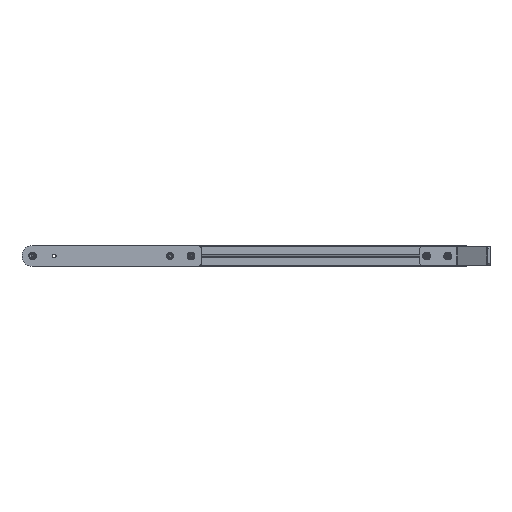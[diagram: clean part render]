
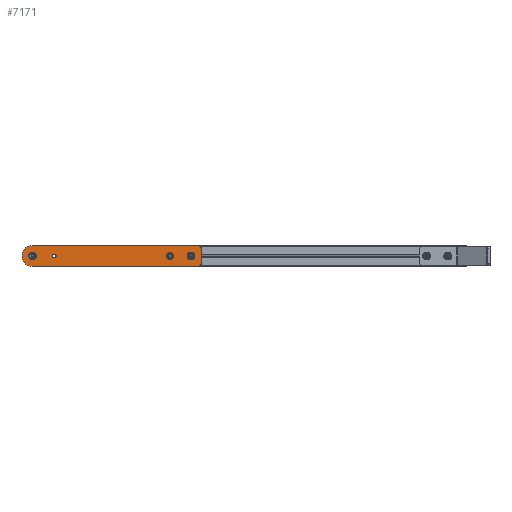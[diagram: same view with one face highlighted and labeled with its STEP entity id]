
A CAD part, left-side view. The second image highlights one B-rep face of the part: STEP entity #7171.
In plain terms, the highlighted planar face has unit normal (-1, 0, 0) as drawn and (0, 0, 1) by its records, which use the part's own axes.
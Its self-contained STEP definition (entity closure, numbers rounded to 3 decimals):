
#112 = ORIENTED_EDGE ( 'NONE', *, *, #10825, .F. ) ;
#296 = VERTEX_POINT ( 'NONE', #2388 ) ;
#445 = VERTEX_POINT ( 'NONE', #3470 ) ;
#449 = DIRECTION ( 'NONE',  ( 0., 0., 1. ) ) ;
#584 = AXIS2_PLACEMENT_3D ( 'NONE', #6480, #10122, #5572 ) ;
#697 = ORIENTED_EDGE ( 'NONE', *, *, #7483, .T. ) ;
#761 = CARTESIAN_POINT ( 'NONE',  ( 12.5, -350., 8. ) ) ;
#873 = CARTESIAN_POINT ( 'NONE',  ( -12.5, -360., 8. ) ) ;
#1412 = CIRCLE ( 'NONE', #2186, 10. ) ;
#1608 = CARTESIAN_POINT ( 'NONE',  ( 12.5, -360., 8. ) ) ;
#1760 = VERTEX_POINT ( 'NONE', #5456 ) ;
#1792 = LINE ( 'NONE', #873, #9332 ) ;
#1976 = EDGE_LOOP ( 'NONE', ( #112 ) ) ;
#1982 = CIRCLE ( 'NONE', #7981, 4.25 ) ;
#2148 = CIRCLE ( 'NONE', #584, 4.25 ) ;
#2186 = AXIS2_PLACEMENT_3D ( 'NONE', #2517, #6212, #9920 ) ;
#2234 = EDGE_CURVE ( 'NONE', #3798, #6490, #1792, .T. ) ;
#2294 = VERTEX_POINT ( 'NONE', #3194 ) ;
#2316 = DIRECTION ( 'NONE',  ( 0., 1., 0. ) ) ;
#2388 = CARTESIAN_POINT ( 'NONE',  ( 22.5, -350., 8. ) ) ;
#2517 = CARTESIAN_POINT ( 'NONE',  ( -12.5, -350., 8. ) ) ;
#2597 = FACE_BOUND ( 'NONE', #8111, .T. ) ;
#2605 = VERTEX_POINT ( 'NONE', #9415 ) ;
#2786 = FACE_BOUND ( 'NONE', #1976, .T. ) ;
#3152 = DIRECTION ( 'NONE',  ( 0., 0., 1. ) ) ;
#3194 = CARTESIAN_POINT ( 'NONE',  ( 4.25, 0., 8. ) ) ;
#3393 = CIRCLE ( 'NONE', #4005, 4.25 ) ;
#3470 = CARTESIAN_POINT ( 'NONE',  ( 22.5, 0., 8. ) ) ;
#3535 = AXIS2_PLACEMENT_3D ( 'NONE', #761, #3638, #3692 ) ;
#3573 = EDGE_CURVE ( 'NONE', #2605, #5420, #10712, .T. ) ;
#3638 = DIRECTION ( 'NONE',  ( 0., 0., -1. ) ) ;
#3692 = DIRECTION ( 'NONE',  ( -1., 0., 0. ) ) ;
#3798 = VERTEX_POINT ( 'NONE', #6005 ) ;
#3843 = EDGE_LOOP ( 'NONE', ( #4418 ) ) ;
#3865 = AXIS2_PLACEMENT_3D ( 'NONE', #10528, #449, #5180 ) ;
#4005 = AXIS2_PLACEMENT_3D ( 'NONE', #8854, #3152, #7765 ) ;
#4112 = VERTEX_POINT ( 'NONE', #7091 ) ;
#4130 = ORIENTED_EDGE ( 'NONE', *, *, #6803, .F. ) ;
#4206 = CARTESIAN_POINT ( 'NONE',  ( 22.5, 0., 8. ) ) ;
#4288 = ORIENTED_EDGE ( 'NONE', *, *, #2234, .T. ) ;
#4418 = ORIENTED_EDGE ( 'NONE', *, *, #5068, .F. ) ;
#4544 = FACE_OUTER_BOUND ( 'NONE', #7259, .T. ) ;
#5068 = EDGE_CURVE ( 'NONE', #1760, #1760, #10067, .T. ) ;
#5180 = DIRECTION ( 'NONE',  ( 1., 0., 0. ) ) ;
#5247 = CARTESIAN_POINT ( 'NONE',  ( 4.25, -292.5, 8. ) ) ;
#5313 = ORIENTED_EDGE ( 'NONE', *, *, #7330, .T. ) ;
#5411 = DIRECTION ( 'NONE',  ( 0., 0., 1. ) ) ;
#5420 = VERTEX_POINT ( 'NONE', #11649 ) ;
#5456 = CARTESIAN_POINT ( 'NONE',  ( 4.25, -46., 8. ) ) ;
#5572 = DIRECTION ( 'NONE',  ( 1., 0., 0. ) ) ;
#5632 = ORIENTED_EDGE ( 'NONE', *, *, #5992, .F. ) ;
#5992 = EDGE_CURVE ( 'NONE', #4112, #4112, #2148, .T. ) ;
#6005 = CARTESIAN_POINT ( 'NONE',  ( -12.5, -360., 8. ) ) ;
#6043 = VERTEX_POINT ( 'NONE', #5247 ) ;
#6074 = CIRCLE ( 'NONE', #8010, 10. ) ;
#6212 = DIRECTION ( 'NONE',  ( 0., 0., 1. ) ) ;
#6415 = PLANE ( 'NONE',  #3535 ) ;
#6445 = DIRECTION ( 'NONE',  ( 1., 0., 0. ) ) ;
#6480 = CARTESIAN_POINT ( 'NONE',  ( 0., -337.5, 8. ) ) ;
#6490 = VERTEX_POINT ( 'NONE', #1608 ) ;
#6593 = DIRECTION ( 'NONE',  ( -1., 0., 0. ) ) ;
#6803 = EDGE_CURVE ( 'NONE', #6043, #6043, #1982, .T. ) ;
#6938 = LINE ( 'NONE', #4206, #10084 ) ;
#7023 = CARTESIAN_POINT ( 'NONE',  ( -22.5, 0., 8. ) ) ;
#7091 = CARTESIAN_POINT ( 'NONE',  ( 4.25, -337.5, 8. ) ) ;
#7128 = CARTESIAN_POINT ( 'NONE',  ( 0., -292.5, 8. ) ) ;
#7171 = ADVANCED_FACE ( 'NONE', ( #7467, #2597, #10002, #2786, #4544 ), #6415, .F. ) ;
#7259 = EDGE_LOOP ( 'NONE', ( #9404, #8882, #5313, #10527, #697, #4288 ) ) ;
#7330 = EDGE_CURVE ( 'NONE', #445, #2605, #9925, .T. ) ;
#7467 = FACE_BOUND ( 'NONE', #7925, .T. ) ;
#7483 = EDGE_CURVE ( 'NONE', #5420, #3798, #1412, .T. ) ;
#7696 = CARTESIAN_POINT ( 'NONE',  ( 0., 0., 8. ) ) ;
#7765 = DIRECTION ( 'NONE',  ( 1., 0., 0. ) ) ;
#7845 = DIRECTION ( 'NONE',  ( 0., 0., 1. ) ) ;
#7925 = EDGE_LOOP ( 'NONE', ( #5632 ) ) ;
#7981 = AXIS2_PLACEMENT_3D ( 'NONE', #7128, #5411, #6445 ) ;
#8010 = AXIS2_PLACEMENT_3D ( 'NONE', #9894, #7845, #9719 ) ;
#8111 = EDGE_LOOP ( 'NONE', ( #4130 ) ) ;
#8280 = EDGE_CURVE ( 'NONE', #296, #445, #6938, .T. ) ;
#8403 = VECTOR ( 'NONE', #9803, 1000. ) ;
#8854 = CARTESIAN_POINT ( 'NONE',  ( 0., 0., 8. ) ) ;
#8882 = ORIENTED_EDGE ( 'NONE', *, *, #8280, .T. ) ;
#9332 = VECTOR ( 'NONE', #10396, 1000. ) ;
#9404 = ORIENTED_EDGE ( 'NONE', *, *, #11542, .T. ) ;
#9415 = CARTESIAN_POINT ( 'NONE',  ( -22.5, 0., 8. ) ) ;
#9719 = DIRECTION ( 'NONE',  ( -1., 0., 0. ) ) ;
#9803 = DIRECTION ( 'NONE',  ( 0., -1., 0. ) ) ;
#9894 = CARTESIAN_POINT ( 'NONE',  ( 12.5, -350., 8. ) ) ;
#9920 = DIRECTION ( 'NONE',  ( 1., 0., 0. ) ) ;
#9925 = CIRCLE ( 'NONE', #10317, 22.5 ) ;
#10002 = FACE_BOUND ( 'NONE', #3843, .T. ) ;
#10067 = CIRCLE ( 'NONE', #3865, 4.25 ) ;
#10084 = VECTOR ( 'NONE', #2316, 1000. ) ;
#10122 = DIRECTION ( 'NONE',  ( 0., 0., 1. ) ) ;
#10317 = AXIS2_PLACEMENT_3D ( 'NONE', #7696, #10416, #6593 ) ;
#10396 = DIRECTION ( 'NONE',  ( 1., 0., 0. ) ) ;
#10416 = DIRECTION ( 'NONE',  ( 0., 0., 1. ) ) ;
#10527 = ORIENTED_EDGE ( 'NONE', *, *, #3573, .T. ) ;
#10528 = CARTESIAN_POINT ( 'NONE',  ( 0., -46., 8. ) ) ;
#10712 = LINE ( 'NONE', #7023, #8403 ) ;
#10825 = EDGE_CURVE ( 'NONE', #2294, #2294, #3393, .T. ) ;
#11542 = EDGE_CURVE ( 'NONE', #6490, #296, #6074, .T. ) ;
#11649 = CARTESIAN_POINT ( 'NONE',  ( -22.5, -350., 8. ) ) ;
